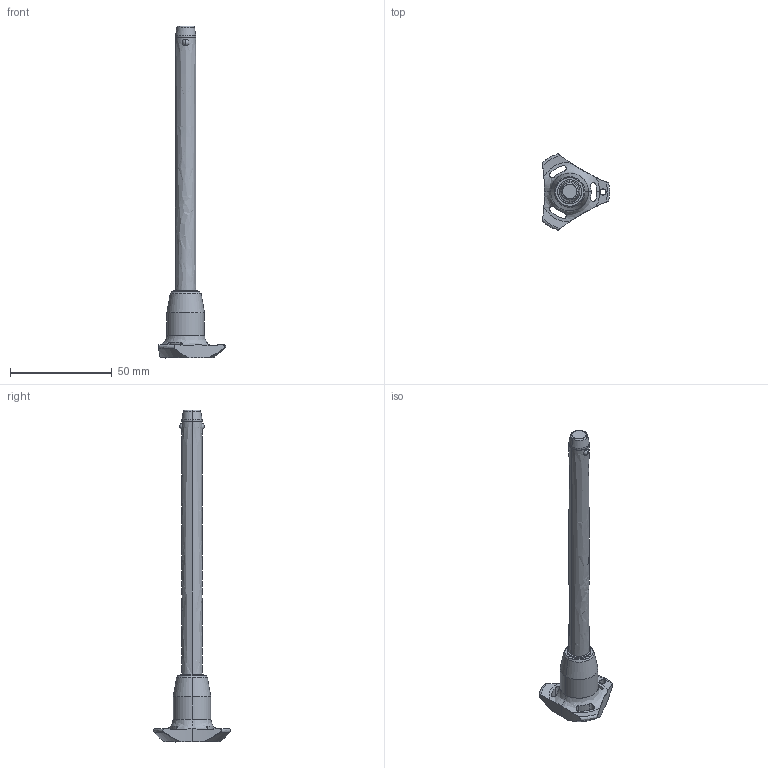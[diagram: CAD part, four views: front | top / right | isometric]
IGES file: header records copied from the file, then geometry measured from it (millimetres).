
Start section: SolidWorks IGES file using analytic representation for surfaces
Global section: file name: C:\Users\ianosborn\Desktop\QR1716_v2\QR1716_v2_20251114_IGES\QR1716.M10-120-T.igs; native system: SolidWorks 2019; preprocessor: SolidWorks 2019; author: IanOsborn; date: 251113.103516; units: millimetre
Bounding box: 33 x 37.51 x 162.9 mm (x, y, z)
Surface area: 7863.3 mm2 (no closed solid volume)
Topology: 0 solids, 0 shells, 68 faces, 1352 edges, 1345 vertices
Faces by surface type: revolution 52, bspline 16
